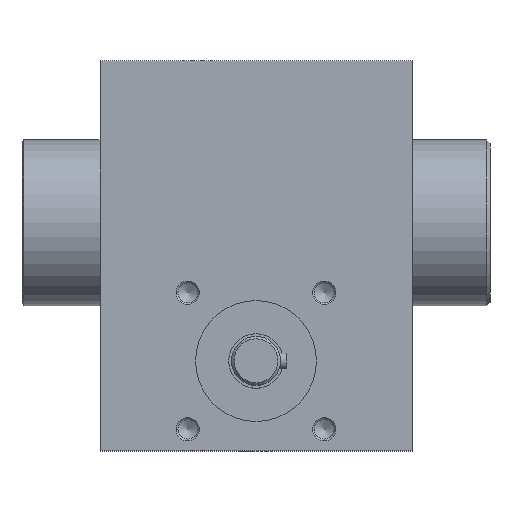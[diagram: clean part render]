
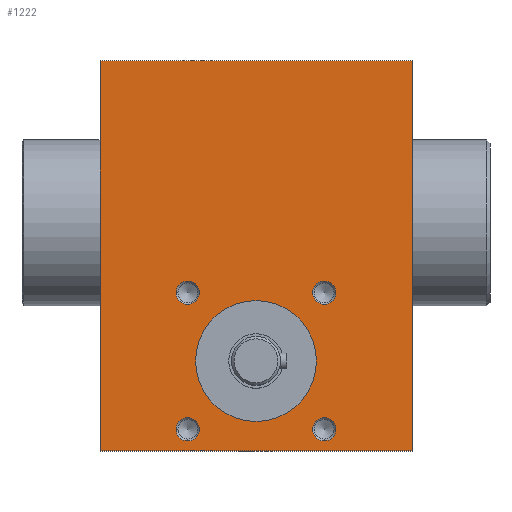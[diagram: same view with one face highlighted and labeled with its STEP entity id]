
A CAD part, top view. The second image highlights one B-rep face of the part: STEP entity #1222.
In plain terms, the highlighted planar face has unit normal (0, 0, 1).
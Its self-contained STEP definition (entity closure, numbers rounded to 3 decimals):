
#143=FACE_BOUND('',#426,.T.);
#144=FACE_BOUND('',#427,.T.);
#145=FACE_BOUND('',#428,.T.);
#146=FACE_BOUND('',#429,.T.);
#147=FACE_BOUND('',#430,.T.);
#203=LINE('',#1951,#243);
#207=LINE('',#1969,#247);
#211=LINE('',#2031,#251);
#212=LINE('',#2032,#252);
#243=VECTOR('',#1533,200.);
#247=VECTOR('',#1549,160.);
#251=VECTOR('',#1617,200.);
#252=VECTOR('',#1618,160.);
#300=FACE_OUTER_BOUND('',#425,.T.);
#425=EDGE_LOOP('',(#955,#956,#957,#958));
#426=EDGE_LOOP('',(#959));
#427=EDGE_LOOP('',(#960));
#428=EDGE_LOOP('',(#961));
#429=EDGE_LOOP('',(#962));
#430=EDGE_LOOP('',(#963));
#575=CIRCLE('',#1337,31.);
#585=CIRCLE('',#1357,6.);
#586=CIRCLE('',#1358,6.);
#587=CIRCLE('',#1359,6.);
#588=CIRCLE('',#1360,6.);
#654=VERTEX_POINT('',#1948);
#655=VERTEX_POINT('',#1950);
#663=VERTEX_POINT('',#1967);
#673=VERTEX_POINT('',#2000);
#683=VERTEX_POINT('',#2030);
#684=VERTEX_POINT('',#2033);
#685=VERTEX_POINT('',#2035);
#686=VERTEX_POINT('',#2037);
#687=VERTEX_POINT('',#2039);
#769=EDGE_CURVE('',#655,#654,#203,.T.);
#778=EDGE_CURVE('',#654,#663,#207,.T.);
#790=EDGE_CURVE('',#673,#673,#575,.T.);
#800=EDGE_CURVE('',#663,#683,#211,.T.);
#801=EDGE_CURVE('',#683,#655,#212,.T.);
#802=EDGE_CURVE('',#684,#684,#585,.T.);
#803=EDGE_CURVE('',#685,#685,#586,.T.);
#804=EDGE_CURVE('',#686,#686,#587,.T.);
#805=EDGE_CURVE('',#687,#687,#588,.T.);
#955=ORIENTED_EDGE('',*,*,#769,.T.);
#956=ORIENTED_EDGE('',*,*,#778,.T.);
#957=ORIENTED_EDGE('',*,*,#800,.T.);
#958=ORIENTED_EDGE('',*,*,#801,.T.);
#959=ORIENTED_EDGE('',*,*,#802,.F.);
#960=ORIENTED_EDGE('',*,*,#803,.F.);
#961=ORIENTED_EDGE('',*,*,#804,.F.);
#962=ORIENTED_EDGE('',*,*,#805,.F.);
#963=ORIENTED_EDGE('',*,*,#790,.F.);
#1177=PLANE('',#1356);
#1222=ADVANCED_FACE('',(#300,#143,#144,#145,#146,#147),#1177,.T.);
#1337=AXIS2_PLACEMENT_3D('',#2001,#1577,#1578);
#1356=AXIS2_PLACEMENT_3D('',#2029,#1615,#1616);
#1357=AXIS2_PLACEMENT_3D('',#2034,#1619,#1620);
#1358=AXIS2_PLACEMENT_3D('',#2036,#1621,#1622);
#1359=AXIS2_PLACEMENT_3D('',#2038,#1623,#1624);
#1360=AXIS2_PLACEMENT_3D('',#2040,#1625,#1626);
#1533=DIRECTION('',(0.,-1.,0.));
#1549=DIRECTION('',(1.,0.,0.));
#1577=DIRECTION('center_axis',(0.,0.,1.));
#1578=DIRECTION('ref_axis',(1.,0.,0.));
#1615=DIRECTION('center_axis',(0.,0.,1.));
#1616=DIRECTION('ref_axis',(1.,0.,0.));
#1617=DIRECTION('',(0.,1.,0.));
#1618=DIRECTION('',(-1.,0.,0.));
#1619=DIRECTION('center_axis',(0.,0.,1.));
#1620=DIRECTION('ref_axis',(1.,0.,0.));
#1621=DIRECTION('center_axis',(0.,0.,1.));
#1622=DIRECTION('ref_axis',(1.,0.,0.));
#1623=DIRECTION('center_axis',(0.,0.,1.));
#1624=DIRECTION('ref_axis',(1.,0.,0.));
#1625=DIRECTION('center_axis',(0.,0.,1.));
#1626=DIRECTION('ref_axis',(1.,0.,0.));
#1948=CARTESIAN_POINT('',(0.,-117.,82.5));
#1950=CARTESIAN_POINT('',(0.,83.,82.5));
#1951=CARTESIAN_POINT('',(0.,83.,82.5));
#1967=CARTESIAN_POINT('',(160.,-117.,82.5));
#1969=CARTESIAN_POINT('',(0.,-117.,82.5));
#2000=CARTESIAN_POINT('',(111.,-71.,82.5));
#2001=CARTESIAN_POINT('Origin',(80.,-71.,82.5));
#2029=CARTESIAN_POINT('Origin',(0.,-117.,82.5));
#2030=CARTESIAN_POINT('',(160.,83.,82.5));
#2031=CARTESIAN_POINT('',(160.,-117.,82.5));
#2032=CARTESIAN_POINT('',(160.,83.,82.5));
#2033=CARTESIAN_POINT('',(121.,-106.,82.5));
#2034=CARTESIAN_POINT('Origin',(115.,-106.,82.5));
#2035=CARTESIAN_POINT('',(121.,-36.,82.5));
#2036=CARTESIAN_POINT('Origin',(115.,-36.,82.5));
#2037=CARTESIAN_POINT('',(51.,-36.,82.5));
#2038=CARTESIAN_POINT('Origin',(45.,-36.,82.5));
#2039=CARTESIAN_POINT('',(51.,-106.,82.5));
#2040=CARTESIAN_POINT('Origin',(45.,-106.,82.5));
